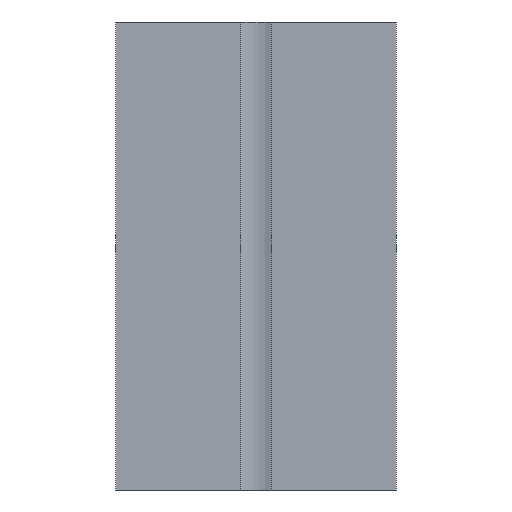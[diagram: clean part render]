
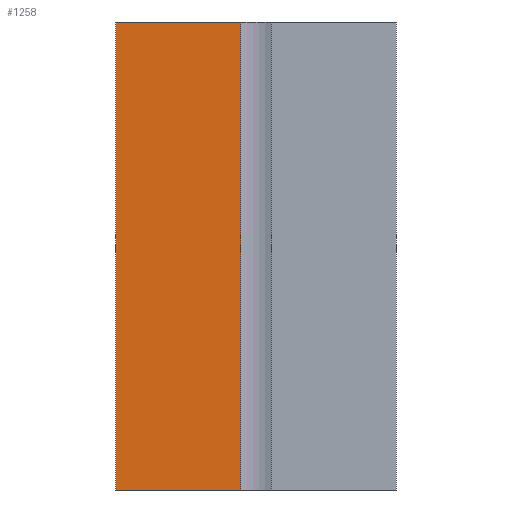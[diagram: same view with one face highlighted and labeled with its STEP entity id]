
A CAD part, front view. The second image highlights one B-rep face of the part: STEP entity #1258.
In plain terms, the highlighted planar face has unit normal (0, -1, 0).
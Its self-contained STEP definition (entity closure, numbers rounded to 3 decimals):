
#51 = ORIENTED_EDGE ( 'NONE', *, *, #548, .F. ) ;
#65 = CARTESIAN_POINT ( 'NONE',  ( -30., -7.5, -50. ) ) ;
#89 = VERTEX_POINT ( 'NONE', #1451 ) ;
#102 = ORIENTED_EDGE ( 'NONE', *, *, #1178, .T. ) ;
#223 = CARTESIAN_POINT ( 'NONE',  ( -3.25, -7.5, -50. ) ) ;
#240 = LINE ( 'NONE', #223, #340 ) ;
#261 = CARTESIAN_POINT ( 'NONE',  ( -3.25, -7.5, 50. ) ) ;
#290 = EDGE_CURVE ( 'NONE', #89, #1483, #794, .T. ) ;
#295 = CARTESIAN_POINT ( 'NONE',  ( -3.25, -7.5, -50. ) ) ;
#340 = VECTOR ( 'NONE', #939, 1000. ) ;
#365 = DIRECTION ( 'NONE',  ( 0., -1., 0. ) ) ;
#385 = VECTOR ( 'NONE', #542, 1000. ) ;
#394 = LINE ( 'NONE', #1213, #1340 ) ;
#408 = LINE ( 'NONE', #261, #1110 ) ;
#542 = DIRECTION ( 'NONE',  ( 1., 0., 0. ) ) ;
#548 = EDGE_CURVE ( 'NONE', #89, #1033, #394, .T. ) ;
#575 = PLANE ( 'NONE',  #1253 ) ;
#642 = CARTESIAN_POINT ( 'NONE',  ( -3.25, -7.5, 50. ) ) ;
#646 = EDGE_LOOP ( 'NONE', ( #1504, #51, #1527, #102 ) ) ;
#704 = VERTEX_POINT ( 'NONE', #642 ) ;
#776 = CARTESIAN_POINT ( 'NONE',  ( -30., -7.5, 50. ) ) ;
#794 = LINE ( 'NONE', #65, #385 ) ;
#871 = DIRECTION ( 'NONE',  ( 0., 0., 1. ) ) ;
#939 = DIRECTION ( 'NONE',  ( 0., 0., 1. ) ) ;
#973 = EDGE_CURVE ( 'NONE', #704, #1033, #408, .T. ) ;
#1033 = VERTEX_POINT ( 'NONE', #776 ) ;
#1051 = DIRECTION ( 'NONE',  ( 0., 0., -1. ) ) ;
#1110 = VECTOR ( 'NONE', #1466, 1000. ) ;
#1178 = EDGE_CURVE ( 'NONE', #1483, #704, #240, .T. ) ;
#1213 = CARTESIAN_POINT ( 'NONE',  ( -30., -7.5, -50. ) ) ;
#1253 = AXIS2_PLACEMENT_3D ( 'NONE', #1444, #365, #1051 ) ;
#1258 = ADVANCED_FACE ( 'NONE', ( #1310 ), #575, .T. ) ;
#1310 = FACE_OUTER_BOUND ( 'NONE', #646, .T. ) ;
#1340 = VECTOR ( 'NONE', #871, 1000. ) ;
#1444 = CARTESIAN_POINT ( 'NONE',  ( -3.25, -7.5, 0. ) ) ;
#1451 = CARTESIAN_POINT ( 'NONE',  ( -30., -7.5, -50. ) ) ;
#1466 = DIRECTION ( 'NONE',  ( -1., 0., 0. ) ) ;
#1483 = VERTEX_POINT ( 'NONE', #295 ) ;
#1504 = ORIENTED_EDGE ( 'NONE', *, *, #973, .T. ) ;
#1527 = ORIENTED_EDGE ( 'NONE', *, *, #290, .T. ) ;
